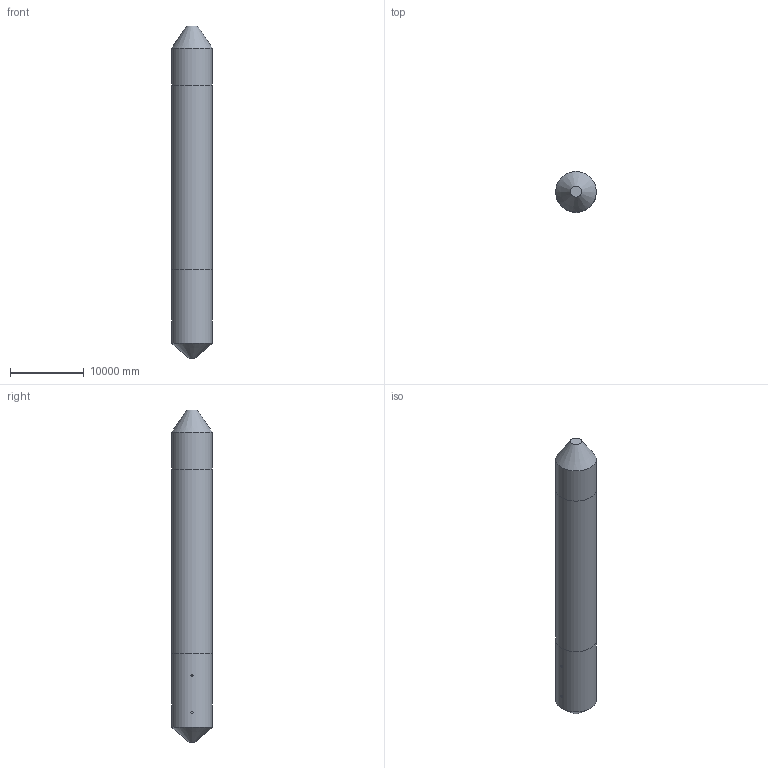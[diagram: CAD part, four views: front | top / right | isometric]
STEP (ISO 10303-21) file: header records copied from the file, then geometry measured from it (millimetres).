
FILE_DESCRIPTION(('Open CASCADE Model'),'2;1');
FILE_NAME('Open CASCADE Shape Model','2026-05-26T13:18:46',('Author'),( 'Open CASCADE'),'Open CASCADE STEP processor 7.8','build123d', 'Unknown');
FILE_SCHEMA(('AUTOMOTIVE_DESIGN { 1 0 10303 214 1 1 1 1 }'));
Length unit declared in the file: millimetre
Products named in the file (19): ASSEMBLY; SOLID
Assembly tree (18 placements, depth 3):
  ASSEMBLY
    ASSEMBLY
      SOLID
    ASSEMBLY
      SOLID
    ASSEMBLY
      SOLID
    ASSEMBLY
      SOLID
    ASSEMBLY
      SOLID
    ASSEMBLY
      SOLID
    ASSEMBLY
      SOLID
    ASSEMBLY
      SOLID
    ASSEMBLY
      SOLID
Bounding box: 5500 x 5500 x 45000 mm (x, y, z)
Volume: 1000984199663.5 mm3; surface area: 956496751.7 mm2
Topology: 9 solids, 9 shells, 27 faces, 27 edges, 18 vertices
Faces by surface type: plane 18, cylinder 7, cone 2
Full cylindrical faces by diameter (mm): 300 x4, 5500 x3
Entity records: 1162 total; most frequent: DIRECTION 185, CARTESIAN_POINT 151, AXIS2_PLACEMENT_3D 64, ORIENTED_EDGE 54, PCURVE 54, DEFINITIONAL_REPRESENTATION 54, LINE 39, VECTOR 39
